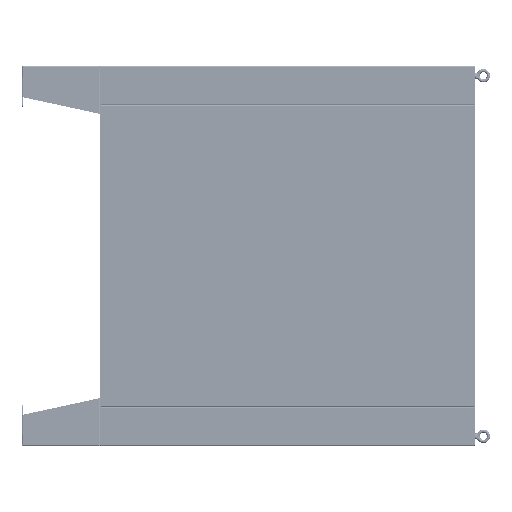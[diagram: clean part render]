
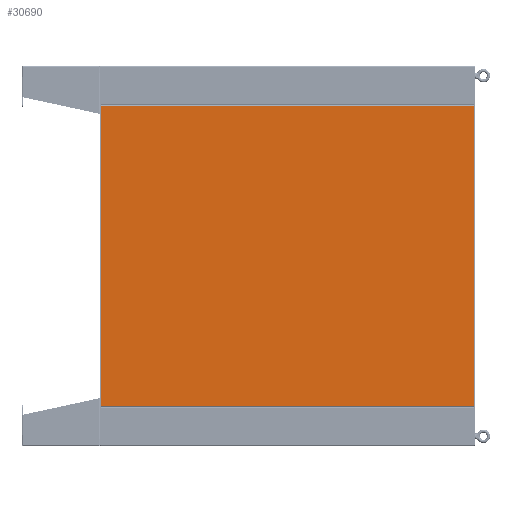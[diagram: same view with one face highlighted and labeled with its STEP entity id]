
A CAD part, left-side view. The second image highlights one B-rep face of the part: STEP entity #30690.
In plain terms, the highlighted planar face has unit normal (-1, 0, 0) as drawn and (0, 1, 0) by its records, which use the part's own axes.
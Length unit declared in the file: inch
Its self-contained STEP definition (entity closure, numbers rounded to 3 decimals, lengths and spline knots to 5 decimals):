
#29015=DIRECTION('',(-1.,0.,0.));
#29016=VECTOR('',#29015,57.622);
#29017=CARTESIAN_POINT('',(28.811,0.,35.896));
#29018=LINE('',#29017,#29016);
#29058=DIRECTION('',(0.,0.,1.));
#29059=VECTOR('',#29058,71.792);
#29060=CARTESIAN_POINT('',(28.811,0.,-35.896));
#29061=LINE('',#29060,#29059);
#29145=DIRECTION('',(-1.,0.,0.));
#29146=VECTOR('',#29145,57.622);
#29147=CARTESIAN_POINT('',(28.811,0.,-35.896));
#29148=LINE('',#29147,#29146);
#29188=DIRECTION('',(0.,0.,-1.));
#29189=VECTOR('',#29188,71.792);
#29190=CARTESIAN_POINT('',(-28.811,0.,35.896));
#29191=LINE('',#29190,#29189);
#30439=CARTESIAN_POINT('',(-28.811,0.,-35.896));
#30440=VERTEX_POINT('',#30439);
#30441=CARTESIAN_POINT('',(-28.811,0.,35.896));
#30442=VERTEX_POINT('',#30441);
#30455=CARTESIAN_POINT('',(28.811,0.,35.896));
#30456=VERTEX_POINT('',#30455);
#30457=CARTESIAN_POINT('',(28.811,0.,-35.896));
#30458=VERTEX_POINT('',#30457);
#30675=CARTESIAN_POINT('',(29.,0.,35.896));
#30676=DIRECTION('',(0.,1.,0.));
#30677=DIRECTION('',(-1.,0.,0.));
#30678=AXIS2_PLACEMENT_3D('',#30675,#30676,#30677);
#30679=PLANE('',#30678);
#30681=ORIENTED_EDGE('',*,*,#30680,.T.);
#30683=ORIENTED_EDGE('',*,*,#30682,.T.);
#30685=ORIENTED_EDGE('',*,*,#30684,.F.);
#30687=ORIENTED_EDGE('',*,*,#30686,.T.);
#30688=EDGE_LOOP('',(#30681,#30683,#30685,#30687));
#30689=FACE_OUTER_BOUND('',#30688,.F.);
#30680=EDGE_CURVE('',#30456,#30442,#29018,.T.);
#30682=EDGE_CURVE('',#30442,#30440,#29191,.T.);
#30684=EDGE_CURVE('',#30458,#30440,#29148,.T.);
#30686=EDGE_CURVE('',#30458,#30456,#29061,.T.);
#30690=ADVANCED_FACE('',(#30689),#30679,.T.);
